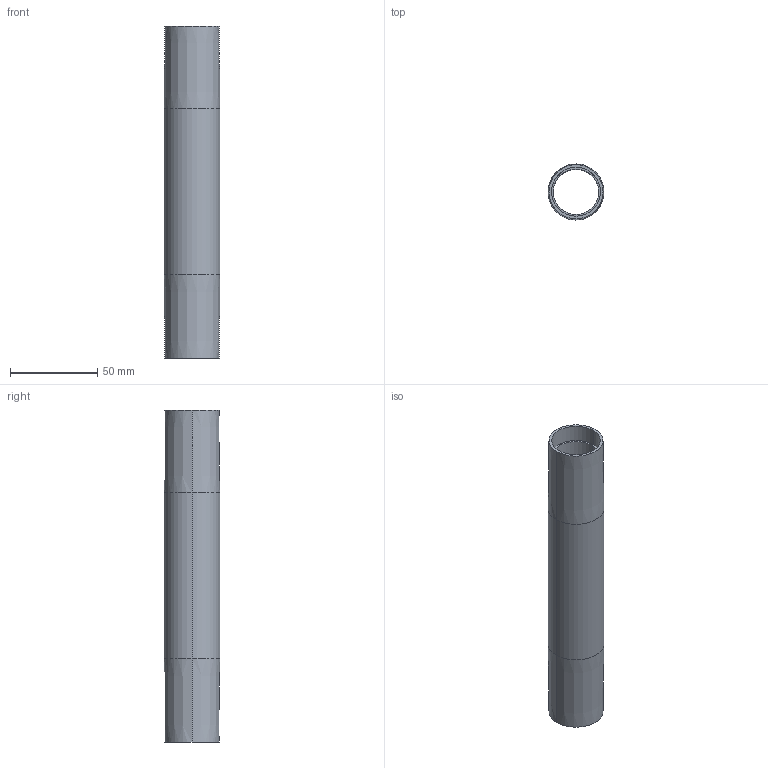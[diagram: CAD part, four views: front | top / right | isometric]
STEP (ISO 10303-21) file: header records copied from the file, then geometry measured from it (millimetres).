
FILE_DESCRIPTION (( 'STEP AP214' ), '1' );
FILE_NAME ('084.030.125.STEP', '2021-02-05T15:39:23', ( '' ), ( '' ), 'SwSTEP 2.0', 'SolidWorks 2018', '' );
FILE_SCHEMA (( 'AUTOMOTIVE_DESIGN' ));
Length unit declared in the file: millimetre
Products named in the file (1): 084.030.125
Bounding box: 32 x 32 x 190 mm (x, y, z)
Volume: 47871.3 mm3; surface area: 35045 mm2
Topology: 1 solids, 1 shells, 16 faces, 32 edges, 20 vertices
Faces by surface type: cylinder 8, cone 4, plane 4
Entity records: 462 total; most frequent: DIRECTION 86, CARTESIAN_POINT 69, ORIENTED_EDGE 64, AXIS2_PLACEMENT_3D 37, EDGE_CURVE 32, EDGE_LOOP 20, VERTEX_POINT 20, CIRCLE 20
